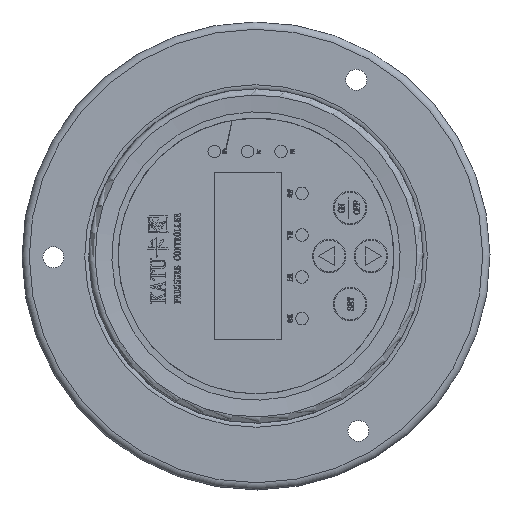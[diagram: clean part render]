
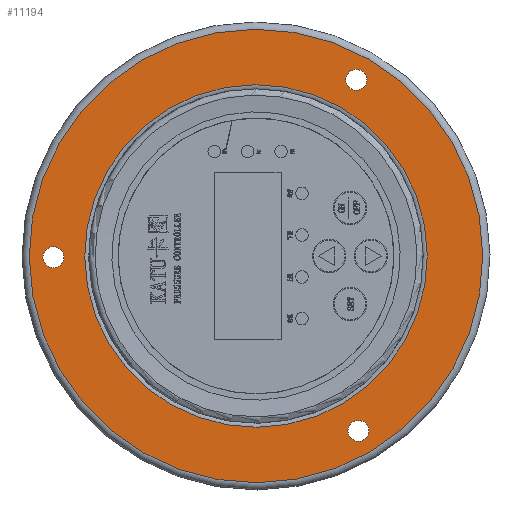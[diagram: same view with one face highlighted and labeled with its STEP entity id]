
A CAD part, left-side view. The second image highlights one B-rep face of the part: STEP entity #11194.
In plain terms, the highlighted planar face has unit normal (-1, 0, 0).
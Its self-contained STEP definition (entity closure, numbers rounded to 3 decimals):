
#10061=PLANE('',#31910);
#11194=ADVANCED_FACE('',(#12927,#12928,#12929,#12930,#12931),#10061,.F.);
#12927=FACE_BOUND('',#13181,.T.);
#12928=FACE_BOUND('',#13182,.T.);
#12929=FACE_BOUND('',#13183,.T.);
#12930=FACE_BOUND('',#13184,.T.);
#12931=FACE_BOUND('',#13185,.T.);
#13181=EDGE_LOOP('',(#15022));
#13182=EDGE_LOOP('',(#15023));
#13183=EDGE_LOOP('',(#15024));
#13184=EDGE_LOOP('',(#15025));
#13185=EDGE_LOOP('',(#15026));
#15022=ORIENTED_EDGE('',*,*,#27168,.F.);
#15023=ORIENTED_EDGE('',*,*,#27170,.F.);
#15024=ORIENTED_EDGE('',*,*,#27172,.F.);
#15025=ORIENTED_EDGE('',*,*,#27176,.T.);
#15026=ORIENTED_EDGE('',*,*,#27180,.F.);
#24113=VERTEX_POINT('',#39328);
#24115=VERTEX_POINT('',#39333);
#24117=VERTEX_POINT('',#39338);
#24121=VERTEX_POINT('',#39349);
#24125=VERTEX_POINT('',#39359);
#27168=EDGE_CURVE('',#24113,#24113,#31724,.T.);
#27170=EDGE_CURVE('',#24115,#24115,#31726,.T.);
#27172=EDGE_CURVE('',#24117,#24117,#31728,.T.);
#27176=EDGE_CURVE('',#24121,#24121,#31732,.T.);
#27180=EDGE_CURVE('',#24125,#24125,#31736,.T.);
#31724=CIRCLE('',#31882,2.5);
#31726=CIRCLE('',#31885,2.5);
#31728=CIRCLE('',#31888,2.5);
#31732=CIRCLE('',#31895,40.987);
#31736=CIRCLE('',#31901,54.263);
#31882=AXIS2_PLACEMENT_3D('',#39327,#33231,#33232);
#31885=AXIS2_PLACEMENT_3D('',#39332,#33237,#33238);
#31888=AXIS2_PLACEMENT_3D('',#39337,#33243,#33244);
#31895=AXIS2_PLACEMENT_3D('',#39348,#33257,#33258);
#31901=AXIS2_PLACEMENT_3D('',#39358,#33269,#33270);
#31910=AXIS2_PLACEMENT_3D('',#39372,#33287,#33288);
#33231=DIRECTION('',(-1.,0.,0.));
#33232=DIRECTION('',(0.,-0.863,0.505));
#33237=DIRECTION('',(-1.,0.,0.));
#33238=DIRECTION('',(0.,-0.863,0.505));
#33243=DIRECTION('',(-1.,0.,0.));
#33244=DIRECTION('',(0.,-0.863,0.505));
#33257=DIRECTION('',(1.,0.,0.));
#33258=DIRECTION('',(0.,0.863,-0.505));
#33269=DIRECTION('',(1.,0.,0.));
#33270=DIRECTION('',(0.,0.863,-0.505));
#33287=DIRECTION('',(1.,0.,0.));
#33288=DIRECTION('',(0.,-0.863,0.505));
#39327=CARTESIAN_POINT('',(-29.372,-36.309,36.146));
#39328=CARTESIAN_POINT('',(-29.372,-38.467,37.409));
#39332=CARTESIAN_POINT('',(-29.372,36.694,77.706));
#39333=CARTESIAN_POINT('',(-29.372,34.537,78.969));
#39337=CARTESIAN_POINT('',(-29.372,-35.799,120.149));
#39338=CARTESIAN_POINT('',(-29.372,-37.957,121.412));
#39348=CARTESIAN_POINT('',(-29.372,-11.805,78.));
#39349=CARTESIAN_POINT('',(-29.372,23.566,57.292));
#39358=CARTESIAN_POINT('',(-29.372,-11.805,78.));
#39359=CARTESIAN_POINT('',(-29.372,35.023,50.583));
#39372=CARTESIAN_POINT('',(-29.372,-11.805,78.));
